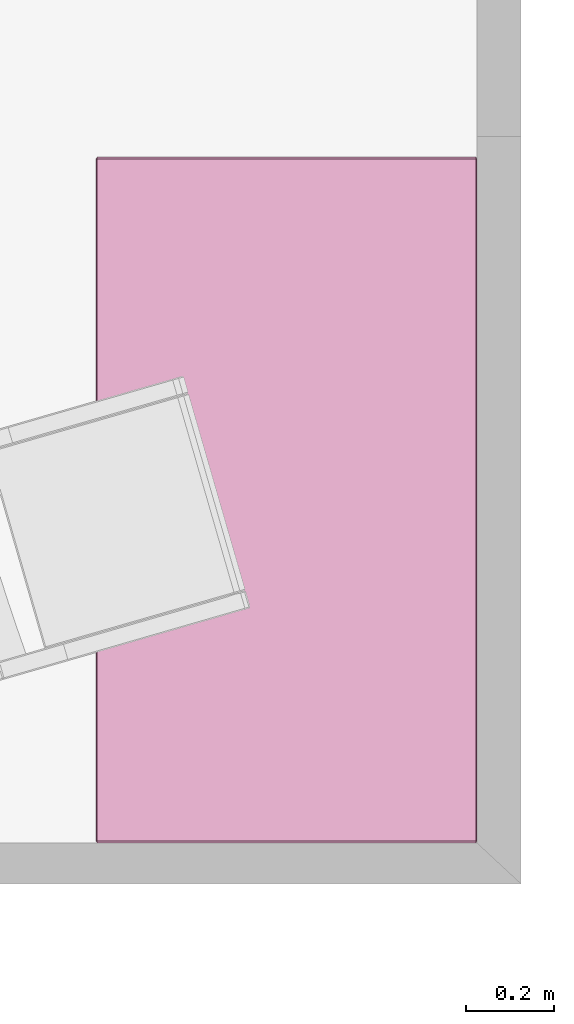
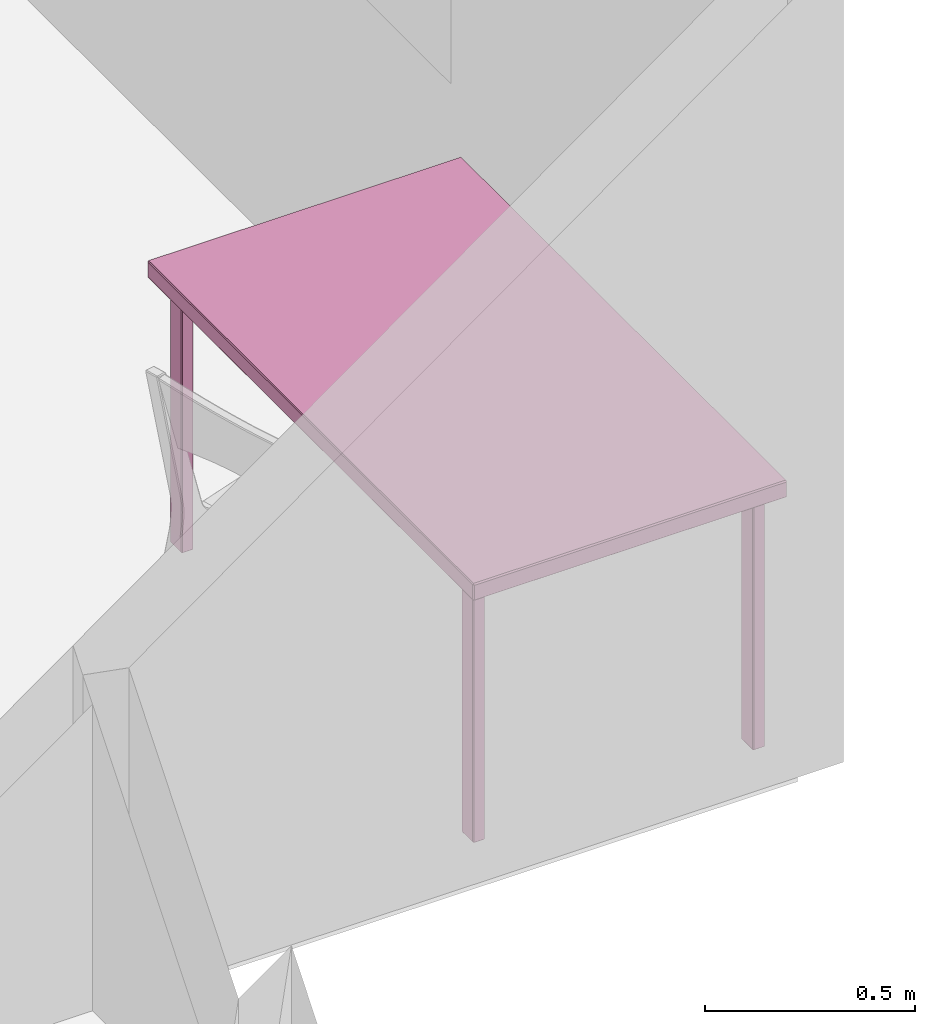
# One storey, part 22 of 26: 1 furnishing.
"""IFC2X3 building model written with IfcOpenShell, lengths in metres."""

from ifc_helpers import new_model, si_unit, direction, frame, origin_with_axes, place, context, project, spatial, faceted_brep, type_object, element, save


model = new_model("IFC2X3")

# Units and contexts
model_context = context("Model", 3, precision=1e-05, world=origin_with_axes(), true_north=direction((0.996, -0.093, 0.0)))
ifc_project = project(units=[si_unit("AREAUNIT", "SQUARE_METRE"), si_unit("LENGTHUNIT", "METRE")], contexts=[model_context])

# Site, building, storey, space
site_placement = place(None, origin_with_axes())
site = spatial("IfcSite", under=ifc_project, at=site_placement, Name="Site", CompositionType="ELEMENT")
building_placement = place(site_placement, origin_with_axes())
building = spatial("IfcBuilding", under=site, at=building_placement, Name="Building", CompositionType="ELEMENT")
storey_placement = place(building_placement, frame((0.0, 0.0, 0.0500001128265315), z_axis=(0.0, 0.0, 1.0), x_axis=(1.0, 0.0, 0.0)))
storey = spatial("IfcBuildingStorey", under=building, at=storey_placement, Name="Story 0", CompositionType="ELEMENT", Elevation=0.0499999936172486)
space_placement = place(storey_placement, frame((26.326596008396, 5.77526615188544, 0.0), z_axis=(0.0, 0.0, 1.0), x_axis=(1.0, 0.0, 0.0)))
space = spatial("IfcSpace", under=storey, at=space_placement, Name="012", CompositionType="ELEMENT", InteriorOrExteriorSpace="INTERNAL")

# Furnishing
furniture_type = type_object("IfcFurnitureType", Name="d6265339-3982-43b1-8b6a-9f032d61280d")
furnishing_placement = place(space_placement, frame((2.76492239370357, 0.777752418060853, 0.398932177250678), z_axis=(0.0, 0.0, 0.999999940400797), x_axis=(-0.999999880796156, 0.0, 0.0)))
element("IfcFurnishingElement", 1, at=furnishing_placement, inside=space, type_object=furniture_type, Name="Table", ObjectType="Table", context=model_context, shape_type="Brep", body=[
    faceted_brep([(0.4296, 0.7777, 0.3527), (-0.4296, 0.7777, 0.3527), (0.4296, 0.7777, 0.3954), (-0.4296, 0.7777, 0.3954), (0.4296, 0.7777, 0.3954), (-0.4296, 0.7777, 0.3527), (0.3683, -0.7201, 0.3616), (0.3683, -0.6691, 0.3616), (0.3683, -0.7201, -0.3954), (0.3683, -0.6691, -0.3954), (0.3683, -0.7201, -0.3954), (0.3683, -0.6691, 0.3616), (0.3988, -0.724, 0.3616), (0.3704, -0.724, 0.3616), (0.3988, -0.724, -0.3954), (0.3704, -0.724, -0.3954), (0.3988, -0.724, -0.3954), (0.3704, -0.724, 0.3616), (0.4009, -0.6691, 0.3616), (0.4009, -0.7201, 0.3616), (0.4009, -0.6691, -0.3954), (0.4009, -0.7201, -0.3954), (0.4009, -0.6691, -0.3954), (0.4009, -0.7201, 0.3616), (0.3704, -0.6652, 0.3616), (0.3988, -0.6652, 0.3616), (0.3704, -0.6652, -0.3954), (0.3988, -0.6652, -0.3954), (0.3704, -0.6652, -0.3954), (0.3988, -0.6652, 0.3616), (0.3683, 0.7201, 0.3616), (0.3683, 0.7201, -0.3954), (0.3683, 0.6691, 0.3616), (0.3683, 0.6691, -0.3954), (0.3683, 0.6691, 0.3616), (0.3683, 0.7201, -0.3954), (0.3988, 0.724, 0.3616), (0.3988, 0.724, -0.3954), (0.3704, 0.724, 0.3616), (0.3704, 0.724, -0.3954), (0.3704, 0.724, 0.3616), (0.3988, 0.724, -0.3954), (0.4009, 0.6691, 0.3616), (0.4009, 0.6691, -0.3954), (0.4009, 0.7201, 0.3616), (0.4009, 0.7201, -0.3954), (0.4009, 0.7201, 0.3616), (0.4009, 0.6691, -0.3954), (0.3704, 0.6652, 0.3616), (0.3704, 0.6652, -0.3954), (0.3988, 0.6652, 0.3616), (0.3988, 0.6652, -0.3954), (0.3988, 0.6652, 0.3616), (0.3704, 0.6652, -0.3954), (0.4318, 0.7739, 0.3527), (0.4318, 0.7739, 0.3954), (0.4318, -0.7739, 0.3527), (0.4318, -0.7739, 0.3954), (0.4318, -0.7739, 0.3527), (0.4318, 0.7739, 0.3954), (-0.4318, 0.7739, 0.3954), (-0.4318, 0.7739, 0.3527), (-0.4318, -0.7739, 0.3954), (-0.4318, -0.7739, 0.3527), (-0.4318, -0.7739, 0.3954), (-0.4318, 0.7739, 0.3527), (-0.3683, -0.7201, 0.3616), (-0.3683, -0.7201, -0.3954), (-0.3683, -0.6691, 0.3616), (-0.3683, -0.6691, -0.3954), (-0.3683, -0.6691, 0.3616), (-0.3683, -0.7201, -0.3954), (-0.3988, -0.724, 0.3616), (-0.3988, -0.724, -0.3954), (-0.3704, -0.724, 0.3616), (-0.3704, -0.724, -0.3954), (-0.3704, -0.724, 0.3616), (-0.3988, -0.724, -0.3954), (-0.4009, -0.6691, 0.3616), (-0.4009, -0.6691, -0.3954), (-0.4009, -0.7201, 0.3616), (-0.4009, -0.7201, -0.3954), (-0.4009, -0.7201, 0.3616), (-0.4009, -0.6691, -0.3954), (-0.3704, -0.6652, 0.3616), (-0.3704, -0.6652, -0.3954), (-0.3988, -0.6652, 0.3616), (-0.3988, -0.6652, -0.3954), (-0.3988, -0.6652, 0.3616), (-0.3704, -0.6652, -0.3954), (-0.3683, 0.7201, 0.3616), (-0.3683, 0.6691, 0.3616), (-0.3683, 0.7201, -0.3954), (-0.3683, 0.6691, -0.3954), (-0.3683, 0.7201, -0.3954), (-0.3683, 0.6691, 0.3616), (-0.3988, 0.724, 0.3616), (-0.3704, 0.724, 0.3616), (-0.3988, 0.724, -0.3954), (-0.3704, 0.724, -0.3954), (-0.3988, 0.724, -0.3954), (-0.3704, 0.724, 0.3616), (-0.4009, 0.6691, 0.3616), (-0.4009, 0.7201, 0.3616), (-0.4009, 0.6691, -0.3954), (-0.4009, 0.7201, -0.3954), (-0.4009, 0.6691, -0.3954), (-0.4009, 0.7201, 0.3616), (-0.3704, 0.6652, 0.3616), (-0.3988, 0.6652, 0.3616), (-0.3704, 0.6652, -0.3954), (-0.3988, 0.6652, -0.3954), (-0.3704, 0.6652, -0.3954), (-0.3988, 0.6652, 0.3616), (-0.4296, 0.7739, 0.3989), (-0.4296, -0.7739, 0.3989), (0.4296, 0.7739, 0.3989), (0.4296, -0.7739, 0.3989), (0.4296, 0.7739, 0.3989), (-0.4296, -0.7739, 0.3989), (0.4296, -0.7777, 0.3527), (0.4296, -0.7777, 0.3954), (-0.4296, -0.7777, 0.3527), (-0.4296, -0.7777, 0.3954), (-0.4296, -0.7777, 0.3527), (0.4296, -0.7777, 0.3954), (0.4296, -0.7739, 0.3491), (-0.4296, -0.7739, 0.3491), (0.4296, 0.7739, 0.3491), (-0.4296, 0.7739, 0.3491), (0.4296, 0.7739, 0.3491), (-0.4296, -0.7739, 0.3491), (0.3988, -0.7201, 0.3651), (0.3988, -0.6691, 0.3651), (0.3704, -0.7201, 0.3651), (0.3704, -0.6691, 0.3651), (0.3704, -0.7201, 0.3651), (0.3988, -0.6691, 0.3651), (0.3988, -0.6691, -0.3989), (0.3988, -0.7201, -0.3989), (0.3704, -0.6691, -0.3989), (0.3704, -0.7201, -0.3989), (0.3704, -0.6691, -0.3989), (0.3988, -0.7201, -0.3989), (0.3988, 0.7201, -0.3989), (0.3988, 0.6691, -0.3989), (0.3704, 0.7201, -0.3989), (0.3704, 0.6691, -0.3989), (0.3704, 0.7201, -0.3989), (0.3988, 0.6691, -0.3989), (0.3988, 0.6691, 0.3651), (0.3988, 0.7201, 0.3651), (0.3704, 0.6691, 0.3651), (0.3704, 0.7201, 0.3651), (0.3704, 0.6691, 0.3651), (0.3988, 0.7201, 0.3651), (-0.3988, -0.7201, -0.3989), (-0.3988, -0.6691, -0.3989), (-0.3704, -0.7201, -0.3989), (-0.3704, -0.6691, -0.3989), (-0.3704, -0.7201, -0.3989), (-0.3988, -0.6691, -0.3989), (-0.3988, -0.6691, 0.3651), (-0.3988, -0.7201, 0.3651), (-0.3704, -0.6691, 0.3651), (-0.3704, -0.7201, 0.3651), (-0.3704, -0.6691, 0.3651), (-0.3988, -0.7201, 0.3651), (-0.3988, 0.7201, 0.3651), (-0.3988, 0.6691, 0.3651), (-0.3704, 0.7201, 0.3651), (-0.3704, 0.6691, 0.3651), (-0.3704, 0.7201, 0.3651), (-0.3988, 0.6691, 0.3651), (-0.3988, 0.6691, -0.3989), (-0.3988, 0.7201, -0.3989), (-0.3704, 0.6691, -0.3989), (-0.3704, 0.7201, -0.3989), (-0.3704, 0.6691, -0.3989), (-0.3988, 0.7201, -0.3989), (-0.4296, 0.7739, 0.3989), (-0.4296, 0.7777, 0.3954), (-0.4318, 0.7739, 0.3954), (0.3704, -0.6691, -0.3989), (0.3683, -0.6691, -0.3954), (0.3704, -0.6652, -0.3954), (0.3704, -0.7201, -0.3989), (0.3704, -0.724, -0.3954), (0.3683, -0.7201, -0.3954), (0.3988, -0.7201, -0.3989), (0.4009, -0.7201, -0.3954), (0.3988, -0.724, -0.3954), (0.3988, -0.6691, -0.3989), (0.3988, -0.6652, -0.3954), (0.4009, -0.6691, -0.3954), (0.3704, -0.6691, 0.3651), (0.3704, -0.6652, 0.3616), (0.3683, -0.6691, 0.3616), (0.3704, 0.6652, -0.3954), (0.3683, 0.6691, -0.3954), (0.3704, 0.6691, -0.3989), (0.3704, 0.7201, 0.3651), (0.3704, 0.724, 0.3616), (0.3683, 0.7201, 0.3616), (0.3988, 0.7201, 0.3651), (0.4009, 0.7201, 0.3616), (0.3988, 0.724, 0.3616), (0.3988, 0.6691, 0.3651), (0.3988, 0.6652, 0.3616), (0.4009, 0.6691, 0.3616), (0.4296, -0.7777, 0.3954), (0.4318, -0.7739, 0.3954), (0.4296, -0.7739, 0.3989), (0.4296, 0.7739, 0.3989), (0.4318, 0.7739, 0.3954), (0.4296, 0.7777, 0.3954), (-0.4296, -0.7777, 0.3527), (-0.4318, -0.7739, 0.3527), (-0.4296, -0.7739, 0.3491), (-0.4296, 0.7739, 0.3491), (-0.4318, 0.7739, 0.3527), (-0.4296, 0.7777, 0.3527), (-0.3704, -0.6652, -0.3954), (-0.3683, -0.6691, -0.3954), (-0.3704, -0.6691, -0.3989), (-0.3704, -0.7201, 0.3651), (-0.3704, -0.724, 0.3616), (-0.3683, -0.7201, 0.3616), (-0.3988, -0.7201, 0.3651), (-0.4009, -0.7201, 0.3616), (-0.3988, -0.724, 0.3616), (-0.3988, -0.6691, 0.3651), (-0.3988, -0.6652, 0.3616), (-0.4009, -0.6691, 0.3616), (-0.3704, 0.6691, -0.3989), (-0.3683, 0.6691, -0.3954), (-0.3704, 0.6652, -0.3954), (-0.3704, 0.7201, -0.3989), (-0.3704, 0.724, -0.3954), (-0.3683, 0.7201, -0.3954), (-0.3988, 0.7201, -0.3989), (-0.4009, 0.7201, -0.3954), (-0.3988, 0.724, -0.3954), (-0.3988, 0.6691, -0.3989), (-0.3988, 0.6652, -0.3954), (-0.4009, 0.6691, -0.3954), (-0.3704, 0.6691, 0.3651), (-0.3704, 0.6652, 0.3616), (-0.3683, 0.6691, 0.3616), (-0.4296, -0.7777, 0.3954), (-0.4296, -0.7739, 0.3989), (-0.4318, -0.7739, 0.3954), (0.4296, -0.7777, 0.3527), (0.4296, -0.7739, 0.3491), (0.4318, -0.7739, 0.3527), (0.4318, 0.7739, 0.3527), (0.4296, 0.7739, 0.3491), (0.4296, 0.7777, 0.3527), (0.3988, -0.6652, 0.3616), (0.3988, -0.6691, 0.3651), (0.4009, -0.6691, 0.3616), (0.4009, -0.7201, 0.3616), (0.3988, -0.7201, 0.3651), (0.3988, -0.724, 0.3616), (0.3704, -0.724, 0.3616), (0.3704, -0.7201, 0.3651), (0.3683, -0.7201, 0.3616), (0.3988, 0.6652, -0.3954), (0.3988, 0.6691, -0.3989), (0.4009, 0.6691, -0.3954), (0.4009, 0.7201, -0.3954), (0.3988, 0.7201, -0.3989), (0.3988, 0.724, -0.3954), (0.3704, 0.724, -0.3954), (0.3704, 0.7201, -0.3989), (0.3683, 0.7201, -0.3954), (0.3704, 0.6652, 0.3616), (0.3704, 0.6691, 0.3651), (0.3683, 0.6691, 0.3616), (-0.3988, -0.6652, -0.3954), (-0.3988, -0.6691, -0.3989), (-0.4009, -0.6691, -0.3954), (-0.4009, -0.7201, -0.3954), (-0.3988, -0.7201, -0.3989), (-0.3988, -0.724, -0.3954), (-0.3704, -0.724, -0.3954), (-0.3704, -0.7201, -0.3989), (-0.3683, -0.7201, -0.3954), (-0.3704, -0.6652, 0.3616), (-0.3704, -0.6691, 0.3651), (-0.3683, -0.6691, 0.3616), (-0.3988, 0.6652, 0.3616), (-0.3988, 0.6691, 0.3651), (-0.4009, 0.6691, 0.3616), (-0.4009, 0.7201, 0.3616), (-0.3988, 0.7201, 0.3651), (-0.3988, 0.724, 0.3616), (-0.3704, 0.724, 0.3616), (-0.3704, 0.7201, 0.3651), (-0.3683, 0.7201, 0.3616), (-0.4296, 0.7777, 0.3954), (-0.4296, 0.7777, 0.3527), (-0.4318, 0.7739, 0.3954), (-0.4318, 0.7739, 0.3527), (-0.4318, 0.7739, 0.3954), (-0.4296, 0.7777, 0.3527), (-0.4296, 0.7777, 0.3527), (0.4296, 0.7777, 0.3527), (-0.4296, 0.7739, 0.3491), (0.4296, 0.7739, 0.3491), (-0.4296, 0.7739, 0.3491), (0.4296, 0.7777, 0.3527), (0.4296, 0.7777, 0.3527), (0.4296, 0.7777, 0.3954), (0.4318, 0.7739, 0.3527), (0.4318, 0.7739, 0.3954), (0.4318, 0.7739, 0.3527), (0.4296, 0.7777, 0.3954), (0.4296, 0.7777, 0.3954), (-0.4296, 0.7777, 0.3954), (0.4296, 0.7739, 0.3989), (-0.4296, 0.7739, 0.3989), (0.4296, 0.7739, 0.3989), (-0.4296, 0.7777, 0.3954), (0.3683, -0.6691, -0.3954), (0.3683, -0.6691, 0.3616), (0.3704, -0.6652, -0.3954), (0.3704, -0.6652, 0.3616), (0.3704, -0.6652, -0.3954), (0.3683, -0.6691, 0.3616), (0.3683, -0.6691, 0.3616), (0.3683, -0.7201, 0.3616), (0.3704, -0.6691, 0.3651), (0.3704, -0.7201, 0.3651), (0.3704, -0.6691, 0.3651), (0.3683, -0.7201, 0.3616), (0.3683, -0.7201, 0.3616), (0.3683, -0.7201, -0.3954), (0.3704, -0.724, 0.3616), (0.3704, -0.724, -0.3954), (0.3704, -0.724, 0.3616), (0.3683, -0.7201, -0.3954), (0.3683, -0.7201, -0.3954), (0.3683, -0.6691, -0.3954), (0.3704, -0.7201, -0.3989), (0.3704, -0.6691, -0.3989), (0.3704, -0.7201, -0.3989), (0.3683, -0.6691, -0.3954), (0.3704, -0.724, 0.3616), (0.3988, -0.724, 0.3616), (0.3704, -0.7201, 0.3651), (0.3988, -0.7201, 0.3651), (0.3704, -0.7201, 0.3651), (0.3988, -0.724, 0.3616), (0.3988, -0.724, 0.3616), (0.3988, -0.724, -0.3954), (0.4009, -0.7201, 0.3616), (0.4009, -0.7201, -0.3954), (0.4009, -0.7201, 0.3616), (0.3988, -0.724, -0.3954), (0.3988, -0.724, -0.3954), (0.3704, -0.724, -0.3954), (0.3988, -0.7201, -0.3989), (0.3704, -0.7201, -0.3989), (0.3988, -0.7201, -0.3989), (0.3704, -0.724, -0.3954), (0.4009, -0.7201, 0.3616), (0.4009, -0.6691, 0.3616), (0.3988, -0.7201, 0.3651), (0.3988, -0.6691, 0.3651), (0.3988, -0.7201, 0.3651), (0.4009, -0.6691, 0.3616), (0.4009, -0.6691, 0.3616), (0.4009, -0.6691, -0.3954), (0.3988, -0.6652, 0.3616), (0.3988, -0.6652, -0.3954), (0.3988, -0.6652, 0.3616), (0.4009, -0.6691, -0.3954), (0.4009, -0.6691, -0.3954), (0.4009, -0.7201, -0.3954), (0.3988, -0.6691, -0.3989), (0.3988, -0.7201, -0.3989), (0.3988, -0.6691, -0.3989), (0.4009, -0.7201, -0.3954), (0.3988, -0.6652, 0.3616), (0.3704, -0.6652, 0.3616), (0.3988, -0.6691, 0.3651), (0.3704, -0.6691, 0.3651), (0.3988, -0.6691, 0.3651), (0.3704, -0.6652, 0.3616), (0.3704, -0.6652, -0.3954), (0.3988, -0.6652, -0.3954), (0.3704, -0.6691, -0.3989), (0.3988, -0.6691, -0.3989), (0.3704, -0.6691, -0.3989), (0.3988, -0.6652, -0.3954), (0.3683, 0.6691, -0.3954), (0.3683, 0.7201, -0.3954), (0.3704, 0.6691, -0.3989), (0.3704, 0.7201, -0.3989), (0.3704, 0.6691, -0.3989), (0.3683, 0.7201, -0.3954), (0.3683, 0.7201, -0.3954), (0.3683, 0.7201, 0.3616), (0.3704, 0.724, -0.3954), (0.3704, 0.724, 0.3616), (0.3704, 0.724, -0.3954), (0.3683, 0.7201, 0.3616), (0.3683, 0.7201, 0.3616), (0.3683, 0.6691, 0.3616), (0.3704, 0.7201, 0.3651), (0.3704, 0.6691, 0.3651), (0.3704, 0.7201, 0.3651), (0.3683, 0.6691, 0.3616), (0.3683, 0.6691, 0.3616), (0.3683, 0.6691, -0.3954), (0.3704, 0.6652, 0.3616), (0.3704, 0.6652, -0.3954), (0.3704, 0.6652, 0.3616), (0.3683, 0.6691, -0.3954), (0.3704, 0.724, -0.3954), (0.3988, 0.724, -0.3954), (0.3704, 0.7201, -0.3989), (0.3988, 0.7201, -0.3989), (0.3704, 0.7201, -0.3989), (0.3988, 0.724, -0.3954), (0.3988, 0.724, -0.3954), (0.3988, 0.724, 0.3616), (0.4009, 0.7201, -0.3954), (0.4009, 0.7201, 0.3616), (0.4009, 0.7201, -0.3954), (0.3988, 0.724, 0.3616), (0.3988, 0.724, 0.3616), (0.3704, 0.724, 0.3616), (0.3988, 0.7201, 0.3651), (0.3704, 0.7201, 0.3651), (0.3988, 0.7201, 0.3651), (0.3704, 0.724, 0.3616), (0.4009, 0.7201, -0.3954), (0.4009, 0.6691, -0.3954), (0.3988, 0.7201, -0.3989), (0.3988, 0.6691, -0.3989), (0.3988, 0.7201, -0.3989), (0.4009, 0.6691, -0.3954), (0.4009, 0.6691, -0.3954), (0.4009, 0.6691, 0.3616), (0.3988, 0.6652, -0.3954), (0.3988, 0.6652, 0.3616), (0.3988, 0.6652, -0.3954), (0.4009, 0.6691, 0.3616), (0.4009, 0.6691, 0.3616), (0.4009, 0.7201, 0.3616), (0.3988, 0.6691, 0.3651), (0.3988, 0.7201, 0.3651), (0.3988, 0.6691, 0.3651), (0.4009, 0.7201, 0.3616), (0.3988, 0.6652, -0.3954), (0.3704, 0.6652, -0.3954), (0.3988, 0.6691, -0.3989), (0.3704, 0.6691, -0.3989), (0.3988, 0.6691, -0.3989), (0.3704, 0.6652, -0.3954), (0.3704, 0.6652, 0.3616), (0.3988, 0.6652, 0.3616), (0.3704, 0.6691, 0.3651), (0.3988, 0.6691, 0.3651), (0.3704, 0.6691, 0.3651), (0.3988, 0.6652, 0.3616), (0.4318, -0.7739, 0.3954), (0.4318, 0.7739, 0.3954), (0.4296, -0.7739, 0.3989), (0.4296, 0.7739, 0.3989), (0.4296, -0.7739, 0.3989), (0.4318, 0.7739, 0.3954), (0.4318, 0.7739, 0.3527), (0.4318, -0.7739, 0.3527), (0.4296, 0.7739, 0.3491), (0.4296, -0.7739, 0.3491), (0.4296, 0.7739, 0.3491), (0.4318, -0.7739, 0.3527), (0.4318, -0.7739, 0.3527), (0.4318, -0.7739, 0.3954), (0.4296, -0.7777, 0.3527), (0.4296, -0.7777, 0.3954), (0.4296, -0.7777, 0.3527), (0.4318, -0.7739, 0.3954), (-0.4318, -0.7739, 0.3527), (-0.4318, 0.7739, 0.3527), (-0.4296, -0.7739, 0.3491), (-0.4296, 0.7739, 0.3491), (-0.4296, -0.7739, 0.3491), (-0.4318, 0.7739, 0.3527), (-0.4318, 0.7739, 0.3954), (-0.4318, -0.7739, 0.3954), (-0.4296, 0.7739, 0.3989), (-0.4296, -0.7739, 0.3989), (-0.4296, 0.7739, 0.3989), (-0.4318, -0.7739, 0.3954), (-0.4318, -0.7739, 0.3954), (-0.4318, -0.7739, 0.3527), (-0.4296, -0.7777, 0.3954), (-0.4296, -0.7777, 0.3527), (-0.4296, -0.7777, 0.3954), (-0.4318, -0.7739, 0.3527), (-0.3683, -0.6691, -0.3954), (-0.3683, -0.7201, -0.3954), (-0.3704, -0.6691, -0.3989), (-0.3704, -0.7201, -0.3989), (-0.3704, -0.6691, -0.3989), (-0.3683, -0.7201, -0.3954), (-0.3683, -0.7201, -0.3954), (-0.3683, -0.7201, 0.3616), (-0.3704, -0.724, -0.3954), (-0.3704, -0.724, 0.3616), (-0.3704, -0.724, -0.3954), (-0.3683, -0.7201, 0.3616), (-0.3683, -0.7201, 0.3616), (-0.3683, -0.6691, 0.3616), (-0.3704, -0.7201, 0.3651), (-0.3704, -0.6691, 0.3651), (-0.3704, -0.7201, 0.3651), (-0.3683, -0.6691, 0.3616), (-0.3683, -0.6691, 0.3616), (-0.3683, -0.6691, -0.3954), (-0.3704, -0.6652, 0.3616), (-0.3704, -0.6652, -0.3954), (-0.3704, -0.6652, 0.3616), (-0.3683, -0.6691, -0.3954), (-0.3704, -0.724, -0.3954), (-0.3988, -0.724, -0.3954), (-0.3704, -0.7201, -0.3989), (-0.3988, -0.7201, -0.3989), (-0.3704, -0.7201, -0.3989), (-0.3988, -0.724, -0.3954), (-0.3988, -0.724, -0.3954), (-0.3988, -0.724, 0.3616), (-0.4009, -0.7201, -0.3954), (-0.4009, -0.7201, 0.3616), (-0.4009, -0.7201, -0.3954), (-0.3988, -0.724, 0.3616), (-0.3988, -0.724, 0.3616), (-0.3704, -0.724, 0.3616), (-0.3988, -0.7201, 0.3651), (-0.3704, -0.7201, 0.3651), (-0.3988, -0.7201, 0.3651), (-0.3704, -0.724, 0.3616), (-0.4009, -0.7201, -0.3954), (-0.4009, -0.6691, -0.3954), (-0.3988, -0.7201, -0.3989), (-0.3988, -0.6691, -0.3989), (-0.3988, -0.7201, -0.3989), (-0.4009, -0.6691, -0.3954), (-0.4009, -0.6691, -0.3954), (-0.4009, -0.6691, 0.3616), (-0.3988, -0.6652, -0.3954), (-0.3988, -0.6652, 0.3616), (-0.3988, -0.6652, -0.3954), (-0.4009, -0.6691, 0.3616), (-0.4009, -0.6691, 0.3616), (-0.4009, -0.7201, 0.3616), (-0.3988, -0.6691, 0.3651), (-0.3988, -0.7201, 0.3651), (-0.3988, -0.6691, 0.3651), (-0.4009, -0.7201, 0.3616), (-0.3988, -0.6652, -0.3954), (-0.3704, -0.6652, -0.3954), (-0.3988, -0.6691, -0.3989), (-0.3704, -0.6691, -0.3989), (-0.3988, -0.6691, -0.3989), (-0.3704, -0.6652, -0.3954), (-0.3704, -0.6652, 0.3616), (-0.3988, -0.6652, 0.3616), (-0.3704, -0.6691, 0.3651), (-0.3988, -0.6691, 0.3651), (-0.3704, -0.6691, 0.3651), (-0.3988, -0.6652, 0.3616), (-0.3683, 0.6691, -0.3954), (-0.3683, 0.6691, 0.3616), (-0.3704, 0.6652, -0.3954), (-0.3704, 0.6652, 0.3616), (-0.3704, 0.6652, -0.3954), (-0.3683, 0.6691, 0.3616), (-0.3683, 0.6691, 0.3616), (-0.3683, 0.7201, 0.3616), (-0.3704, 0.6691, 0.3651), (-0.3704, 0.7201, 0.3651), (-0.3704, 0.6691, 0.3651), (-0.3683, 0.7201, 0.3616), (-0.3683, 0.7201, 0.3616), (-0.3683, 0.7201, -0.3954), (-0.3704, 0.724, 0.3616), (-0.3704, 0.724, -0.3954), (-0.3704, 0.724, 0.3616), (-0.3683, 0.7201, -0.3954), (-0.3683, 0.7201, -0.3954), (-0.3683, 0.6691, -0.3954), (-0.3704, 0.7201, -0.3989), (-0.3704, 0.6691, -0.3989), (-0.3704, 0.7201, -0.3989), (-0.3683, 0.6691, -0.3954), (-0.3704, 0.724, 0.3616), (-0.3988, 0.724, 0.3616), (-0.3704, 0.7201, 0.3651), (-0.3988, 0.7201, 0.3651), (-0.3704, 0.7201, 0.3651), (-0.3988, 0.724, 0.3616), (-0.3988, 0.724, 0.3616), (-0.3988, 0.724, -0.3954), (-0.4009, 0.7201, 0.3616), (-0.4009, 0.7201, -0.3954), (-0.4009, 0.7201, 0.3616), (-0.3988, 0.724, -0.3954), (-0.3988, 0.724, -0.3954), (-0.3704, 0.724, -0.3954), (-0.3988, 0.7201, -0.3989), (-0.3704, 0.7201, -0.3989), (-0.3988, 0.7201, -0.3989), (-0.3704, 0.724, -0.3954), (-0.4009, 0.7201, 0.3616), (-0.4009, 0.6691, 0.3616), (-0.3988, 0.7201, 0.3651), (-0.3988, 0.6691, 0.3651), (-0.3988, 0.7201, 0.3651), (-0.4009, 0.6691, 0.3616), (-0.4009, 0.6691, 0.3616), (-0.4009, 0.6691, -0.3954), (-0.3988, 0.6652, 0.3616), (-0.3988, 0.6652, -0.3954), (-0.3988, 0.6652, 0.3616), (-0.4009, 0.6691, -0.3954), (-0.4009, 0.6691, -0.3954), (-0.4009, 0.7201, -0.3954), (-0.3988, 0.6691, -0.3989), (-0.3988, 0.7201, -0.3989), (-0.3988, 0.6691, -0.3989), (-0.4009, 0.7201, -0.3954), (-0.3988, 0.6652, 0.3616), (-0.3704, 0.6652, 0.3616), (-0.3988, 0.6691, 0.3651), (-0.3704, 0.6691, 0.3651), (-0.3988, 0.6691, 0.3651), (-0.3704, 0.6652, 0.3616), (-0.3704, 0.6652, -0.3954), (-0.3988, 0.6652, -0.3954), (-0.3704, 0.6691, -0.3989), (-0.3988, 0.6691, -0.3989), (-0.3704, 0.6691, -0.3989), (-0.3988, 0.6652, -0.3954), (0.4296, -0.7739, 0.3989), (-0.4296, -0.7739, 0.3989), (0.4296, -0.7777, 0.3954), (-0.4296, -0.7777, 0.3954), (0.4296, -0.7777, 0.3954), (-0.4296, -0.7739, 0.3989), (0.4296, -0.7777, 0.3527), (-0.4296, -0.7777, 0.3527), (0.4296, -0.7739, 0.3491), (-0.4296, -0.7739, 0.3491), (0.4296, -0.7739, 0.3491), (-0.4296, -0.7777, 0.3527)], [[[0, 1, 2]], [[3, 4, 5]], [[6, 7, 8]], [[9, 10, 11]], [[12, 13, 14]], [[15, 16, 17]], [[18, 19, 20]], [[21, 22, 23]], [[24, 25, 26]], [[27, 28, 29]], [[30, 31, 32]], [[33, 34, 35]], [[36, 37, 38]], [[39, 40, 41]], [[42, 43, 44]], [[45, 46, 47]], [[48, 49, 50]], [[51, 52, 53]], [[54, 55, 56]], [[57, 58, 59]], [[60, 61, 62]], [[63, 64, 65]], [[66, 67, 68]], [[69, 70, 71]], [[72, 73, 74]], [[75, 76, 77]], [[78, 79, 80]], [[81, 82, 83]], [[84, 85, 86]], [[87, 88, 89]], [[90, 91, 92]], [[93, 94, 95]], [[96, 97, 98]], [[99, 100, 101]], [[102, 103, 104]], [[105, 106, 107]], [[108, 109, 110]], [[111, 112, 113]], [[114, 115, 116]], [[117, 118, 119]], [[120, 121, 122]], [[123, 124, 125]], [[126, 127, 128]], [[129, 130, 131]], [[132, 133, 134]], [[135, 136, 137]], [[138, 139, 140]], [[141, 142, 143]], [[144, 145, 146]], [[147, 148, 149]], [[150, 151, 152]], [[153, 154, 155]], [[156, 157, 158]], [[159, 160, 161]], [[162, 163, 164]], [[165, 166, 167]], [[168, 169, 170]], [[171, 172, 173]], [[174, 175, 176]], [[177, 178, 179]], [[180, 181, 182]], [[183, 184, 185]], [[186, 187, 188]], [[189, 190, 191]], [[192, 193, 194]], [[195, 196, 197]], [[198, 199, 200]], [[201, 202, 203]], [[204, 205, 206]], [[207, 208, 209]], [[210, 211, 212]], [[213, 214, 215]], [[216, 217, 218]], [[219, 220, 221]], [[222, 223, 224]], [[225, 226, 227]], [[228, 229, 230]], [[231, 232, 233]], [[234, 235, 236]], [[237, 238, 239]], [[240, 241, 242]], [[243, 244, 245]], [[246, 247, 248]], [[249, 250, 251]], [[252, 253, 254]], [[255, 256, 257]], [[258, 259, 260]], [[261, 262, 263]], [[264, 265, 266]], [[267, 268, 269]], [[270, 271, 272]], [[273, 274, 275]], [[276, 277, 278]], [[279, 280, 281]], [[282, 283, 284]], [[285, 286, 287]], [[288, 289, 290]], [[291, 292, 293]], [[294, 295, 296]], [[297, 298, 299]], [[300, 301, 302]], [[303, 304, 305]], [[306, 307, 308]], [[309, 310, 311]], [[312, 313, 314]], [[315, 316, 317]], [[318, 319, 320]], [[321, 322, 323]], [[324, 325, 326]], [[327, 328, 329]], [[330, 331, 332]], [[333, 334, 335]], [[336, 337, 338]], [[339, 340, 341]], [[342, 343, 344]], [[345, 346, 347]], [[348, 349, 350]], [[351, 352, 353]], [[354, 355, 356]], [[357, 358, 359]], [[360, 361, 362]], [[363, 364, 365]], [[366, 367, 368]], [[369, 370, 371]], [[372, 373, 374]], [[375, 376, 377]], [[378, 379, 380]], [[381, 382, 383]], [[384, 385, 386]], [[387, 388, 389]], [[390, 391, 392]], [[393, 394, 395]], [[396, 397, 398]], [[399, 400, 401]], [[402, 403, 404]], [[405, 406, 407]], [[408, 409, 410]], [[411, 412, 413]], [[414, 415, 416]], [[417, 418, 419]], [[420, 421, 422]], [[423, 424, 425]], [[426, 427, 428]], [[429, 430, 431]], [[432, 433, 434]], [[435, 436, 437]], [[438, 439, 440]], [[441, 442, 443]], [[444, 445, 446]], [[447, 448, 449]], [[450, 451, 452]], [[453, 454, 455]], [[456, 457, 458]], [[459, 460, 461]], [[462, 463, 464]], [[465, 466, 467]], [[468, 469, 470]], [[471, 472, 473]], [[474, 475, 476]], [[477, 478, 479]], [[480, 481, 482]], [[483, 484, 485]], [[486, 487, 488]], [[489, 490, 491]], [[492, 493, 494]], [[495, 496, 497]], [[498, 499, 500]], [[501, 502, 503]], [[504, 505, 506]], [[507, 508, 509]], [[510, 511, 512]], [[513, 514, 515]], [[516, 517, 518]], [[519, 520, 521]], [[522, 523, 524]], [[525, 526, 527]], [[528, 529, 530]], [[531, 532, 533]], [[534, 535, 536]], [[537, 538, 539]], [[540, 541, 542]], [[543, 544, 545]], [[546, 547, 548]], [[549, 550, 551]], [[552, 553, 554]], [[555, 556, 557]], [[558, 559, 560]], [[561, 562, 563]], [[564, 565, 566]], [[567, 568, 569]], [[570, 571, 572]], [[573, 574, 575]], [[576, 577, 578]], [[579, 580, 581]], [[582, 583, 584]], [[585, 586, 587]], [[588, 589, 590]], [[591, 592, 593]], [[594, 595, 596]], [[597, 598, 599]], [[600, 601, 602]], [[603, 604, 605]], [[606, 607, 608]], [[609, 610, 611]], [[612, 613, 614]], [[615, 616, 617]], [[618, 619, 620]], [[621, 622, 623]], [[624, 625, 626]], [[627, 628, 629]], [[630, 631, 632]], [[633, 634, 635]], [[636, 637, 638]], [[639, 640, 641]], [[642, 643, 644]], [[645, 646, 647]], [[648, 649, 650]], [[651, 652, 653]], [[654, 655, 656]], [[657, 658, 659]]]),
])

save(model, "model.ifc")
